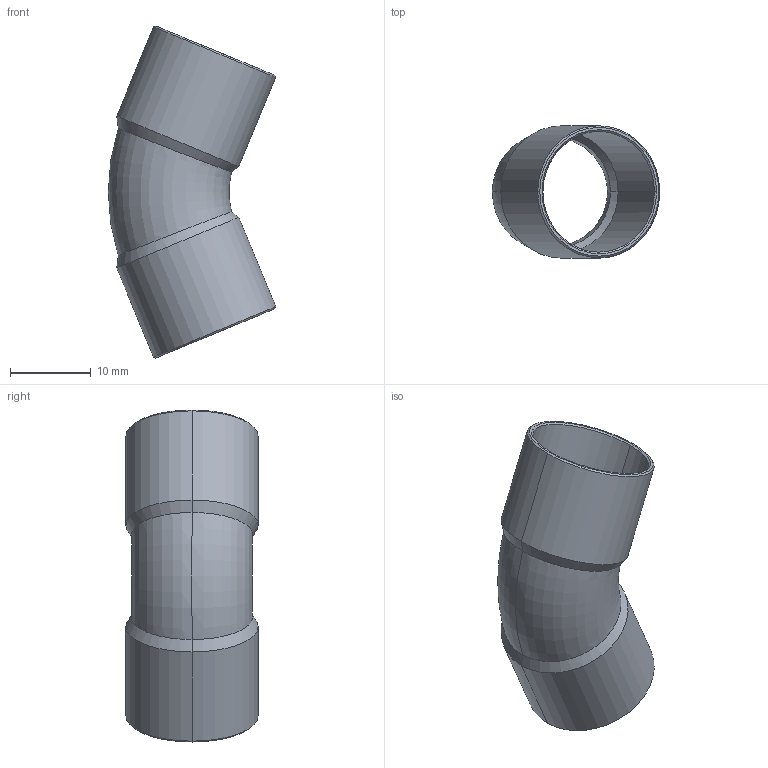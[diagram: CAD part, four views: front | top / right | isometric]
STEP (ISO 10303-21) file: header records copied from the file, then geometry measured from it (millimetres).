
FILE_DESCRIPTION((''),'2;1');
FILE_NAME('P:\Bouwmaten\z-maattekeningen 3D\5000\5040\1504115.stp','2005-10-12T14:28:26',('Kris'),(''),'Autodesk Inventor 8','Autodesk Inventor 8','');
FILE_SCHEMA(('AUTOMOTIVE_DESIGN { 1 0 10303 214 1 1 1 1 }'));
Length unit declared in the file: millimetre
Products named in the file (1): 1504115
Bounding box: 20.79 x 16.4 x 41.23 mm (x, y, z)
Volume: 1256.9 mm3; surface area: 3648.2 mm2
Topology: 1 solids, 1 shells, 30 faces, 60 edges, 32 vertices
Faces by surface type: cone 12, bspline 9, torus 4, cylinder 4, plane 1
Entity records: 1027 total; most frequent: CARTESIAN_POINT 414, DIRECTION 124, ORIENTED_EDGE 120, EDGE_CURVE 60, AXIS2_PLACEMENT_3D 50, VERTEX_POINT 32, EDGE_LOOP 32, FACE_OUTER_BOUND 30
